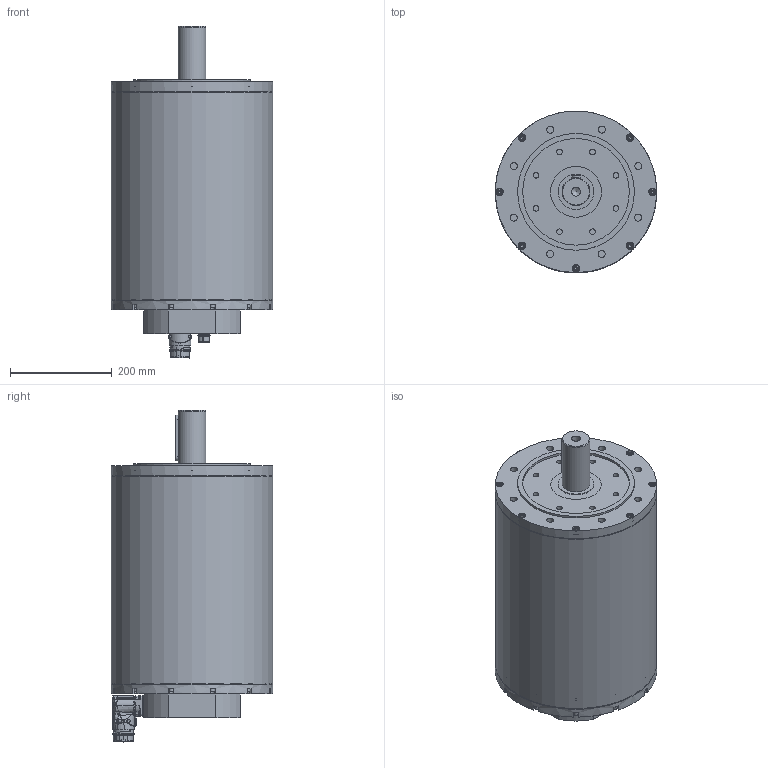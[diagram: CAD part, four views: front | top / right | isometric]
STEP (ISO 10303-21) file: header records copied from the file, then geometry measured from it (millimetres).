
FILE_DESCRIPTION(/* description */ (''),/* implementation_level */ '2;1');
FILE_NAME(/* name */ 'C:\Users\Public\Documents\Autodesk\Inventor LT 2014\Workspace\Motori Sito WEB\TG_8\STEP_DSM5_8x\DSM5_84_x099.stp',/* time_stamp */ '2021-03-31T14:36:16+02:00',/* author */ ('marcor'),/* organization */ (''),/* preprocessor_version */ 'ST-DEVELOPER v15.2',/* originating_system */ 'Autodesk Inventor LT ',/* authorisation */ '');
FILE_SCHEMA (('AUTOMOTIVE_DESIGN { 1 0 10303 214 3 1 1 }'));
Products named in the file (1): DSM5_84_x099
Bounding box: 318 x 318 x 653.5 mm (x, y, z)
Volume: 37610311.2 mm3; surface area: 1147808.5 mm2
Topology: 28 solids, 49 shells, 2004 faces, 5142 edges, 3363 vertices
Faces by surface type: plane 881, cone 450, cylinder 413, bspline 135, torus 108, sphere 17
Full cylindrical faces by diameter (mm): 1.2 x17, 2 x2, 2.013 x4, 2.224 x4, 2.5 x4, 2.88 x4, 3.242 x4, 3.26 x4, 3.6 x5, 4 x5, 4.5 x1, 4.8 x4, 4.917 x16, 5.4 x1, 5.5 x1, 5.9 x1, 6 x16, 6.5 x16, 6.647 x8, 7 x4, 8 x10, 8.5 x1, 9 x7, 10 x16, 10.106 x2, 11 x12, 13 x7, 13.835 x8, 15 x7, 15.2 x1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
Entity records: 65562 total; most frequent: CARTESIAN_POINT 19430, ORIENTED_EDGE 8928, DIRECTION 8774, EDGE_CURVE 4462, AXIS2_PLACEMENT_3D 3492, VERTEX_POINT 3179, EDGE_LOOP 2731, ADVANCED_FACE 2004
